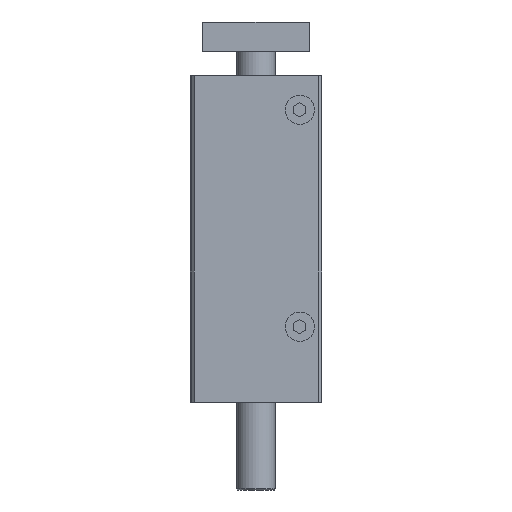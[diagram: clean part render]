
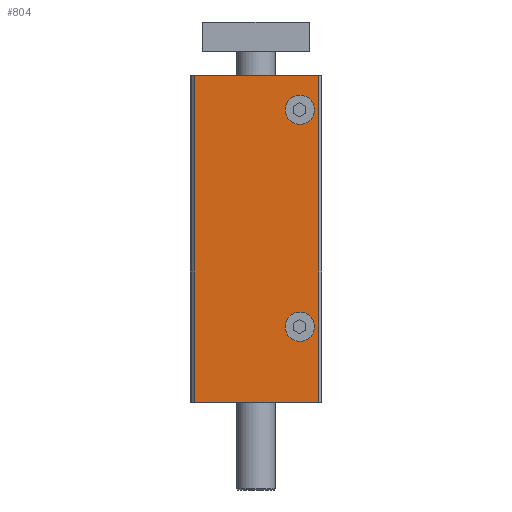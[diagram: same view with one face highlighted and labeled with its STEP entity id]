
A CAD part, front view. The second image highlights one B-rep face of the part: STEP entity #804.
In plain terms, the highlighted planar face has unit normal (0, -1, 0).
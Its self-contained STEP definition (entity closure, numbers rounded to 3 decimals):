
#804 = ADVANCED_FACE( '', ( #1808, #1809, #1810 ), #1811, .T. );
#1808 = FACE_BOUND( '', #2992, .T. );
#1809 = FACE_BOUND( '', #2993, .T. );
#1810 = FACE_OUTER_BOUND( '', #2994, .T. );
#1811 = PLANE( '', #2995 );
#2992 = EDGE_LOOP( '', ( #5114 ) );
#2993 = EDGE_LOOP( '', ( #5115 ) );
#2994 = EDGE_LOOP( '', ( #5116, #5117, #5118, #5119 ) );
#2995 = AXIS2_PLACEMENT_3D( '', #5120, #5121, #5122 );
#5114 = ORIENTED_EDGE( '', *, *, #7231, .T. );
#5115 = ORIENTED_EDGE( '', *, *, #6443, .T. );
#5116 = ORIENTED_EDGE( '', *, *, #7232, .F. );
#5117 = ORIENTED_EDGE( '', *, *, #6904, .F. );
#5118 = ORIENTED_EDGE( '', *, *, #7168, .T. );
#5119 = ORIENTED_EDGE( '', *, *, #7140, .T. );
#5120 = CARTESIAN_POINT( '', ( -25.3, -60., -134. ) );
#5121 = DIRECTION( '', ( 0., -1., 0. ) );
#5122 = DIRECTION( '', ( 0., 0., -1. ) );
#6443 = EDGE_CURVE( '', #7556, #7556, #7557, .T. );
#6904 = EDGE_CURVE( '', #8326, #8322, #8328, .T. );
#7140 = EDGE_CURVE( '', #8681, #8679, #8682, .T. );
#7168 = EDGE_CURVE( '', #8326, #8681, #8722, .T. );
#7231 = EDGE_CURVE( '', #8812, #8812, #8813, .T. );
#7232 = EDGE_CURVE( '', #8322, #8679, #8814, .T. );
#7556 = VERTEX_POINT( '', #9199 );
#7557 = CIRCLE( '', #9200, 6. );
#8322 = VERTEX_POINT( '', #10317 );
#8326 = VERTEX_POINT( '', #10323 );
#8328 = LINE( '', #10326, #10327 );
#8679 = VERTEX_POINT( '', #10829 );
#8681 = VERTEX_POINT( '', #10832 );
#8682 = LINE( '', #10833, #10834 );
#8722 = LINE( '', #10884, #10885 );
#8812 = VERTEX_POINT( '', #11023 );
#8813 = CIRCLE( '', #11024, 6. );
#8814 = LINE( '', #11025, #11026 );
#9199 = CARTESIAN_POINT( '', ( 24., -60., -14. ) );
#9200 = AXIS2_PLACEMENT_3D( '', #11549, #11550, #11551 );
#10317 = CARTESIAN_POINT( '', ( -25.3, -60., 0. ) );
#10323 = CARTESIAN_POINT( '', ( -25.3, -60., -134. ) );
#10326 = CARTESIAN_POINT( '', ( -25.3, -60., -134. ) );
#10327 = VECTOR( '', #12123, 1000. );
#10829 = CARTESIAN_POINT( '', ( 25.8, -60., 0. ) );
#10832 = CARTESIAN_POINT( '', ( 25.8, -60., -134. ) );
#10833 = CARTESIAN_POINT( '', ( 25.8, -60., -134. ) );
#10834 = VECTOR( '', #12389, 1000. );
#10884 = CARTESIAN_POINT( '', ( -25.3, -60., -134. ) );
#10885 = VECTOR( '', #12445, 1000. );
#11023 = CARTESIAN_POINT( '', ( 24., -60., -103. ) );
#11024 = AXIS2_PLACEMENT_3D( '', #12532, #12533, #12534 );
#11025 = CARTESIAN_POINT( '', ( -25.3, -60., 0. ) );
#11026 = VECTOR( '', #12535, 1000. );
#11549 = CARTESIAN_POINT( '', ( 18., -60., -14. ) );
#11550 = DIRECTION( '', ( 0., 1., 0. ) );
#11551 = DIRECTION( '', ( 1., 0., 0. ) );
#12123 = DIRECTION( '', ( 0., 0., 1. ) );
#12389 = DIRECTION( '', ( 0., 0., 1. ) );
#12445 = DIRECTION( '', ( 1., 0., 0. ) );
#12532 = CARTESIAN_POINT( '', ( 18., -60., -103. ) );
#12533 = DIRECTION( '', ( 0., 1., 0. ) );
#12534 = DIRECTION( '', ( 1., 0., 0. ) );
#12535 = DIRECTION( '', ( 1., 0., 0. ) );
